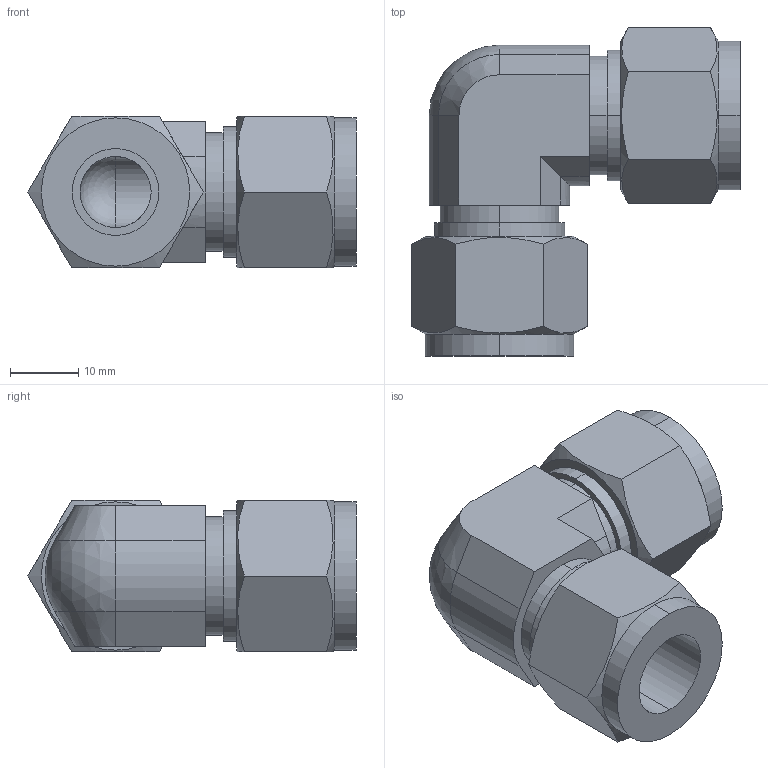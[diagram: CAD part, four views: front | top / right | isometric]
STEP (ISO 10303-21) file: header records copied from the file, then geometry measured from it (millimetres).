
FILE_DESCRIPTION (( 'STEP AP203' ), '1' );
FILE_NAME ('DLA08 SS.STEP', '2009-10-26T06:02:21', ( ' ' ), ( '' ), 'SwSTEP 2.0', 'SolidWorks 2008', '' );
FILE_SCHEMA (( 'CONFIG_CONTROL_DESIGN' ));
Length unit declared in the file: millimetre
Products named in the file (1): DLA08 SS
Bounding box: 48.03 x 48.03 x 22.23 mm (x, y, z)
Volume: 18039 mm3; surface area: 8676.2 mm2
Topology: 1 solids, 1 shells, 68 faces, 164 edges, 104 vertices
Faces by surface type: plane 32, cylinder 24, cone 10, sphere 2
Entity records: 2233 total; most frequent: CARTESIAN_POINT 609, ORIENTED_EDGE 320, DIRECTION 316, EDGE_CURVE 160, AXIS2_PLACEMENT_3D 121, VERTEX_POINT 102, EDGE_LOOP 78, VECTOR 74
